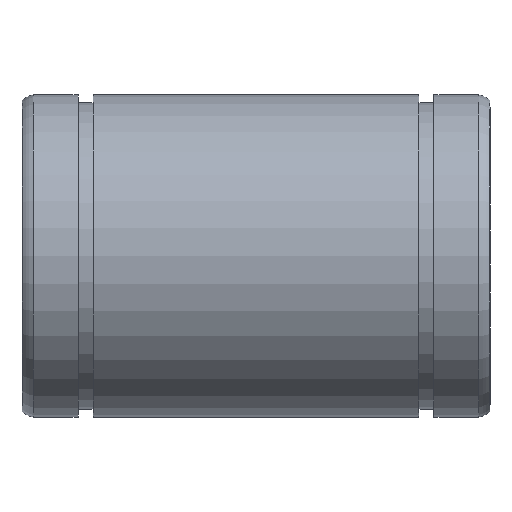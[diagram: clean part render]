
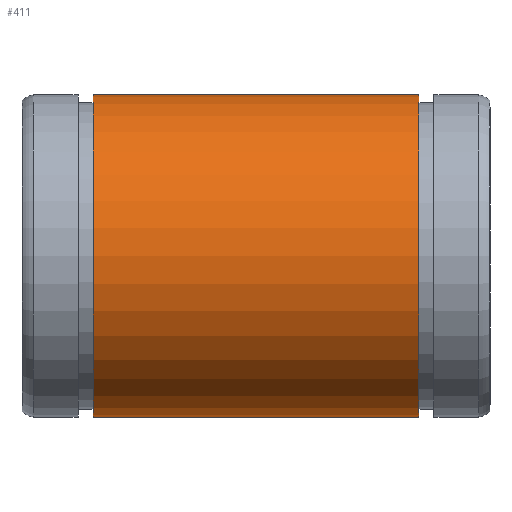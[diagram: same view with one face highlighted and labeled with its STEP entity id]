
A CAD part, top view. The second image highlights one B-rep face of the part: STEP entity #411.
In plain terms, the highlighted cylindrical face has radius 20 mm (diameter 40 mm), a partial arc.
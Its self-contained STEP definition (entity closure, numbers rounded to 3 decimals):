
#165=CARTESIAN_POINT('',(8.8,10.,-17.321));
#166=VERTEX_POINT('',#165);
#173=CARTESIAN_POINT('',(49.2,10.0,-17.321));
#174=VERTEX_POINT('',#173);
#175=CARTESIAN_POINT('',(49.2,10.0,-17.321));
#176=DIRECTION('',(-1.0,0.0,0.0));
#177=VECTOR('',#176,40.4);
#178=LINE('',#175,#177);
#179=EDGE_CURVE('',#174,#166,#178,.T.);
#221=CARTESIAN_POINT('',(49.2,-10.,-17.321));
#222=VERTEX_POINT('',#221);
#229=CARTESIAN_POINT('',(8.8,-10.,-17.321));
#230=VERTEX_POINT('',#229);
#231=CARTESIAN_POINT('',(8.8,-10.,-17.321));
#232=DIRECTION('',(1.0,0.0,0.0));
#233=VECTOR('',#232,40.4);
#234=LINE('',#231,#233);
#235=EDGE_CURVE('',#230,#222,#234,.T.);
#382=CARTESIAN_POINT('',(49.2,0.0,0.));
#383=DIRECTION('',(-1.0,0.0,0.0));
#384=DIRECTION('',(0.0,0.0,1.0));
#385=AXIS2_PLACEMENT_3D('',#382,#383,#384);
#386=CIRCLE('',#385,20.);
#387=EDGE_CURVE('',#222,#174,#386,.T.);
#394=CARTESIAN_POINT('',(29.,0.0,0.));
#395=DIRECTION('',(-1.0,0.0,0.0));
#396=DIRECTION('',(0.0,0.0,1.0));
#397=AXIS2_PLACEMENT_3D('',#394,#395,#396);
#398=CYLINDRICAL_SURFACE('',#397,20.);
#399=ORIENTED_EDGE('',*,*,#179,.T.);
#400=CARTESIAN_POINT('',(8.8,0.0,0.));
#401=DIRECTION('',(-1.0,0.0,0.0));
#402=DIRECTION('',(0.0,0.0,1.0));
#403=AXIS2_PLACEMENT_3D('',#400,#401,#402);
#404=CIRCLE('',#403,20.0);
#405=EDGE_CURVE('',#230,#166,#404,.T.);
#406=ORIENTED_EDGE('',*,*,#405,.F.);
#407=ORIENTED_EDGE('',*,*,#235,.T.);
#408=ORIENTED_EDGE('',*,*,#387,.T.);
#409=EDGE_LOOP('',(#399,#406,#407,#408));
#410=FACE_OUTER_BOUND('',#409,.T.);
#411=ADVANCED_FACE('',(#410),#398,.T.);
